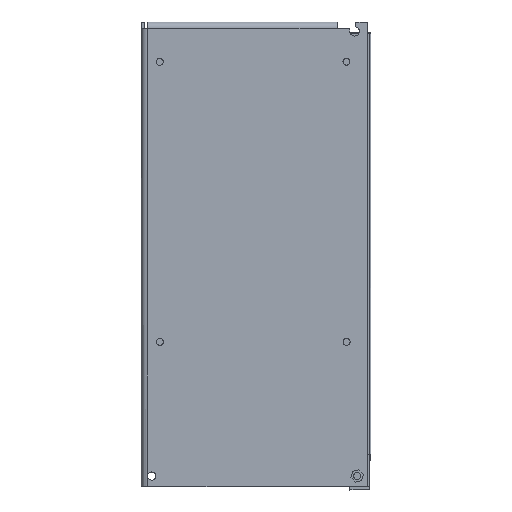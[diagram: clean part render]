
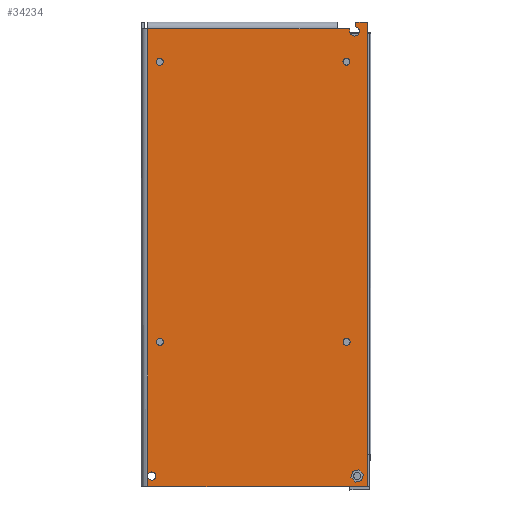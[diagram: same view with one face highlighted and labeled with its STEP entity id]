
A CAD part, left-side view. The second image highlights one B-rep face of the part: STEP entity #34234.
In plain terms, the highlighted planar face has unit normal (-1, 0.001, 0).
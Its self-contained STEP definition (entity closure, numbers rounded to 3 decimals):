
#1245=FACE_BOUND('',#6822,.T.);
#1246=FACE_BOUND('',#6823,.T.);
#1247=FACE_BOUND('',#6824,.T.);
#1248=FACE_BOUND('',#6825,.T.);
#1249=FACE_BOUND('',#6826,.T.);
#2629=CIRCLE('',#35962,1.5);
#2630=CIRCLE('',#35964,1.5);
#2631=CIRCLE('',#35966,1.75);
#2635=CIRCLE('',#35970,1.75);
#2636=CIRCLE('',#35973,1.5);
#2637=CIRCLE('',#35975,1.5);
#2640=CIRCLE('',#35982,2.);
#2828=CIRCLE('',#36306,2.);
#2829=CIRCLE('',#36309,2.8);
#5015=FACE_OUTER_BOUND('',#6821,.T.);
#6821=EDGE_LOOP('',(#23618,#23619,#23620,#23621,#23622,#23623,#23624,#23625,
#23626,#23627,#23628,#23629,#23630,#23631,#23632));
#6822=EDGE_LOOP('',(#23633,#23634,#23635,#23636,#23637,#23638));
#6823=EDGE_LOOP('',(#23639));
#6824=EDGE_LOOP('',(#23640));
#6825=EDGE_LOOP('',(#23641));
#6826=EDGE_LOOP('',(#23642));
#9782=LINE('',#50372,#12254);
#9786=LINE('',#50380,#12258);
#9789=LINE('',#50386,#12261);
#9792=LINE('',#50392,#12264);
#9795=LINE('',#50398,#12267);
#9798=LINE('',#50403,#12270);
#9812=LINE('',#50528,#12284);
#9814=LINE('',#50535,#12286);
#9815=LINE('',#50539,#12287);
#9820=LINE('',#50553,#12292);
#9933=LINE('',#51116,#12405);
#10009=LINE('',#51496,#12481);
#10012=LINE('',#51502,#12484);
#10013=LINE('',#51503,#12485);
#10014=LINE('',#51504,#12486);
#10015=LINE('',#51507,#12487);
#12254=VECTOR('',#39909,10.);
#12258=VECTOR('',#39915,10.);
#12261=VECTOR('',#39920,10.);
#12264=VECTOR('',#39925,10.);
#12267=VECTOR('',#39930,10.);
#12270=VECTOR('',#39935,10.);
#12284=VECTOR('',#40075,10.);
#12286=VECTOR('',#40081,10.);
#12287=VECTOR('',#40084,10.);
#12292=VECTOR('',#40097,10.);
#12405=VECTOR('',#40608,10.);
#12481=VECTOR('',#40932,10.);
#12484=VECTOR('',#40937,10.);
#12485=VECTOR('',#40938,10.);
#12486=VECTOR('',#40939,10.);
#12487=VECTOR('',#40942,10.);
#14726=VERTEX_POINT('',#50370);
#14727=VERTEX_POINT('',#50371);
#14730=VERTEX_POINT('',#50379);
#14732=VERTEX_POINT('',#50385);
#14734=VERTEX_POINT('',#50391);
#14736=VERTEX_POINT('',#50397);
#14769=VERTEX_POINT('',#50488);
#14770=VERTEX_POINT('',#50492);
#14771=VERTEX_POINT('',#50496);
#14772=VERTEX_POINT('',#50497);
#14773=VERTEX_POINT('',#50504);
#14777=VERTEX_POINT('',#50517);
#14778=VERTEX_POINT('',#50521);
#14779=VERTEX_POINT('',#50527);
#14782=VERTEX_POINT('',#50533);
#14783=VERTEX_POINT('',#50537);
#14784=VERTEX_POINT('',#50538);
#14787=VERTEX_POINT('',#50546);
#14789=VERTEX_POINT('',#50552);
#14956=VERTEX_POINT('',#51114);
#15043=VERTEX_POINT('',#51473);
#15051=VERTEX_POINT('',#51490);
#15052=VERTEX_POINT('',#51495);
#15054=VERTEX_POINT('',#51501);
#15055=VERTEX_POINT('',#51505);
#17857=EDGE_CURVE('',#14726,#14727,#9782,.T.);
#17861=EDGE_CURVE('',#14727,#14730,#9786,.T.);
#17864=EDGE_CURVE('',#14730,#14732,#9789,.T.);
#17867=EDGE_CURVE('',#14732,#14734,#9792,.T.);
#17870=EDGE_CURVE('',#14734,#14736,#9795,.T.);
#17873=EDGE_CURVE('',#14736,#14726,#9798,.T.);
#17915=EDGE_CURVE('',#14769,#14769,#2629,.T.);
#17917=EDGE_CURVE('',#14770,#14770,#2630,.T.);
#17920=EDGE_CURVE('',#14773,#14771,#2631,.T.);
#17925=EDGE_CURVE('',#14772,#14773,#2635,.T.);
#17927=EDGE_CURVE('',#14777,#14777,#2636,.T.);
#17929=EDGE_CURVE('',#14778,#14778,#2637,.T.);
#17932=EDGE_CURVE('',#14779,#14772,#9812,.T.);
#17936=EDGE_CURVE('',#14771,#14782,#9814,.T.);
#17937=EDGE_CURVE('',#14783,#14784,#9815,.T.);
#17941=EDGE_CURVE('',#14787,#14783,#2640,.T.);
#17944=EDGE_CURVE('',#14789,#14787,#9820,.T.);
#18194=EDGE_CURVE('',#14956,#14782,#9933,.T.);
#18351=EDGE_CURVE('',#15051,#14789,#2828,.T.);
#18352=EDGE_CURVE('',#15051,#15052,#10009,.T.);
#18355=EDGE_CURVE('',#15054,#14956,#10012,.T.);
#18356=EDGE_CURVE('',#15052,#15054,#10013,.T.);
#18357=EDGE_CURVE('',#14784,#15043,#10014,.T.);
#18358=EDGE_CURVE('',#15055,#15043,#2829,.T.);
#18359=EDGE_CURVE('',#15055,#14779,#10015,.T.);
#23618=ORIENTED_EDGE('',*,*,#17925,.T.);
#23619=ORIENTED_EDGE('',*,*,#17920,.T.);
#23620=ORIENTED_EDGE('',*,*,#17936,.T.);
#23621=ORIENTED_EDGE('',*,*,#18194,.F.);
#23622=ORIENTED_EDGE('',*,*,#18355,.F.);
#23623=ORIENTED_EDGE('',*,*,#18356,.F.);
#23624=ORIENTED_EDGE('',*,*,#18352,.F.);
#23625=ORIENTED_EDGE('',*,*,#18351,.T.);
#23626=ORIENTED_EDGE('',*,*,#17944,.T.);
#23627=ORIENTED_EDGE('',*,*,#17941,.T.);
#23628=ORIENTED_EDGE('',*,*,#17937,.T.);
#23629=ORIENTED_EDGE('',*,*,#18357,.T.);
#23630=ORIENTED_EDGE('',*,*,#18358,.F.);
#23631=ORIENTED_EDGE('',*,*,#18359,.T.);
#23632=ORIENTED_EDGE('',*,*,#17932,.T.);
#23633=ORIENTED_EDGE('',*,*,#17857,.T.);
#23634=ORIENTED_EDGE('',*,*,#17861,.T.);
#23635=ORIENTED_EDGE('',*,*,#17864,.T.);
#23636=ORIENTED_EDGE('',*,*,#17867,.T.);
#23637=ORIENTED_EDGE('',*,*,#17870,.T.);
#23638=ORIENTED_EDGE('',*,*,#17873,.T.);
#23639=ORIENTED_EDGE('',*,*,#17915,.T.);
#23640=ORIENTED_EDGE('',*,*,#17917,.T.);
#23641=ORIENTED_EDGE('',*,*,#17927,.T.);
#23642=ORIENTED_EDGE('',*,*,#17929,.T.);
#32432=PLANE('',#36308);
#34234=ADVANCED_FACE('',(#5015,#1245,#1246,#1247,#1248,#1249),#32432,.F.);
#35962=AXIS2_PLACEMENT_3D('',#50489,#40036,#40037);
#35964=AXIS2_PLACEMENT_3D('',#50493,#40041,#40042);
#35966=AXIS2_PLACEMENT_3D('',#50505,#40046,#40047);
#35970=AXIS2_PLACEMENT_3D('',#50513,#40055,#40056);
#35973=AXIS2_PLACEMENT_3D('',#50518,#40062,#40063);
#35975=AXIS2_PLACEMENT_3D('',#50522,#40067,#40068);
#35982=AXIS2_PLACEMENT_3D('',#50547,#40090,#40091);
#36306=AXIS2_PLACEMENT_3D('',#51493,#40928,#40929);
#36308=AXIS2_PLACEMENT_3D('',#51500,#40935,#40936);
#36309=AXIS2_PLACEMENT_3D('',#51506,#40940,#40941);
#39909=DIRECTION('',(0.,0.698,0.716));
#39915=DIRECTION('',(0.,-0.271,0.963));
#39920=DIRECTION('',(0.,-0.969,0.247));
#39925=DIRECTION('',(0.,-0.698,-0.716));
#39930=DIRECTION('',(0.,0.271,-0.963));
#39935=DIRECTION('',(0.,0.969,-0.247));
#40036=DIRECTION('center_axis',(1.,0.,0.));
#40037=DIRECTION('ref_axis',(0.,0.,-1.));
#40041=DIRECTION('center_axis',(1.,0.,0.));
#40042=DIRECTION('ref_axis',(0.,0.,-1.));
#40046=DIRECTION('center_axis',(1.,0.,0.));
#40047=DIRECTION('ref_axis',(0.,0.,-1.));
#40055=DIRECTION('center_axis',(1.,0.,0.));
#40056=DIRECTION('ref_axis',(0.,0.,-1.));
#40062=DIRECTION('center_axis',(1.,0.,0.));
#40063=DIRECTION('ref_axis',(0.,0.,-1.));
#40067=DIRECTION('center_axis',(1.,0.,0.));
#40068=DIRECTION('ref_axis',(0.,0.,-1.));
#40075=DIRECTION('',(0.,0.,-1.));
#40081=DIRECTION('',(0.,0.,-1.));
#40084=DIRECTION('',(0.,0.,1.));
#40090=DIRECTION('center_axis',(1.,0.,0.));
#40091=DIRECTION('ref_axis',(0.,-1.,-0.01));
#40097=DIRECTION('',(0.,0.784,0.621));
#40608=DIRECTION('',(0.,1.,0.));
#40928=DIRECTION('center_axis',(1.,0.,0.));
#40929=DIRECTION('ref_axis',(0.,0.049,0.999));
#40932=DIRECTION('',(0.,0.,1.));
#40935=DIRECTION('center_axis',(1.,0.,0.));
#40936=DIRECTION('ref_axis',(0.,0.,-1.));
#40937=DIRECTION('',(0.,0.,-1.));
#40938=DIRECTION('',(0.,-1.,0.));
#40939=DIRECTION('',(0.,1.,0.));
#40940=DIRECTION('center_axis',(0.,1.,0.));
#40941=DIRECTION('ref_axis',(-1.,0.,0.));
#40942=DIRECTION('',(0.,1.,0.));
#50370=CARTESIAN_POINT('',(0.,5.244,-38.147));
#50371=CARTESIAN_POINT('',(0.,7.165,-36.179));
#50372=CARTESIAN_POINT('',(0.,46.157,3.78));
#50379=CARTESIAN_POINT('',(0.,6.421,-33.532));
#50380=CARTESIAN_POINT('',(0.,-6.763,13.363));
#50385=CARTESIAN_POINT('',(0.,3.756,-32.853));
#50386=CARTESIAN_POINT('',(0.,11.319,-34.78));
#50391=CARTESIAN_POINT('',(0.,1.835,-34.821));
#50392=CARTESIAN_POINT('',(0.,41.787,6.122));
#50397=CARTESIAN_POINT('',(0.,2.579,-37.468));
#50398=CARTESIAN_POINT('',(0.,-10.976,10.751));
#50403=CARTESIAN_POINT('',(0.,11.475,-39.735));
#50488=CARTESIAN_POINT('',(0.,9.,143.5));
#50489=CARTESIAN_POINT('Origin',(0.,9.,142.));
#50492=CARTESIAN_POINT('',(0.,89.,23.5));
#50493=CARTESIAN_POINT('Origin',(0.,89.,22.));
#50496=CARTESIAN_POINT('',(0.,94.2,-35.915));
#50497=CARTESIAN_POINT('',(0.,94.2,-35.085));
#50504=CARTESIAN_POINT('',(0.,92.5,-33.75));
#50505=CARTESIAN_POINT('Origin',(0.,92.5,-35.5));
#50513=CARTESIAN_POINT('Origin',(0.,92.5,-35.5));
#50517=CARTESIAN_POINT('',(0.,89.,143.5));
#50518=CARTESIAN_POINT('Origin',(0.,89.,142.));
#50521=CARTESIAN_POINT('',(0.,9.,23.5));
#50522=CARTESIAN_POINT('Origin',(0.,9.,22.));
#50527=CARTESIAN_POINT('',(0.,94.2,156.2));
#50528=CARTESIAN_POINT('',(0.,94.2,119.25));
#50533=CARTESIAN_POINT('',(0.,94.2,-40.));
#50535=CARTESIAN_POINT('',(0.,94.2,119.25));
#50537=CARTESIAN_POINT('',(0.,7.5,155.019));
#50538=CARTESIAN_POINT('',(0.,7.5,156.25));
#50539=CARTESIAN_POINT('',(0.,7.5,155.019));
#50546=CARTESIAN_POINT('',(0.,6.945,153.617));
#50547=CARTESIAN_POINT('Origin',(0.,5.5,155.));
#50552=CARTESIAN_POINT('',(0.,6.514,153.276));
#50553=CARTESIAN_POINT('',(0.,3.741,151.082));
#51114=CARTESIAN_POINT('',(0.,0.,-40.));
#51116=CARTESIAN_POINT('',(0.,94.2,-40.));
#51473=CARTESIAN_POINT('',(0.,13.,156.25));
#51490=CARTESIAN_POINT('',(0.,5.,156.936));
#51493=CARTESIAN_POINT('Origin',(0.,5.5,155.));
#51495=CARTESIAN_POINT('',(0.,5.,159.));
#51496=CARTESIAN_POINT('',(0.,5.,156.25));
#51500=CARTESIAN_POINT('Origin',(0.,48.5,79.5));
#51501=CARTESIAN_POINT('',(0.,0.,159.));
#51502=CARTESIAN_POINT('',(0.,0.,159.));
#51503=CARTESIAN_POINT('',(0.,94.2,159.));
#51504=CARTESIAN_POINT('',(0.,7.5,156.25));
#51505=CARTESIAN_POINT('',(0.,13.,156.2));
#51506=CARTESIAN_POINT('Origin',(2.8,13.,156.2));
#51507=CARTESIAN_POINT('',(0.,24.25,156.2));
